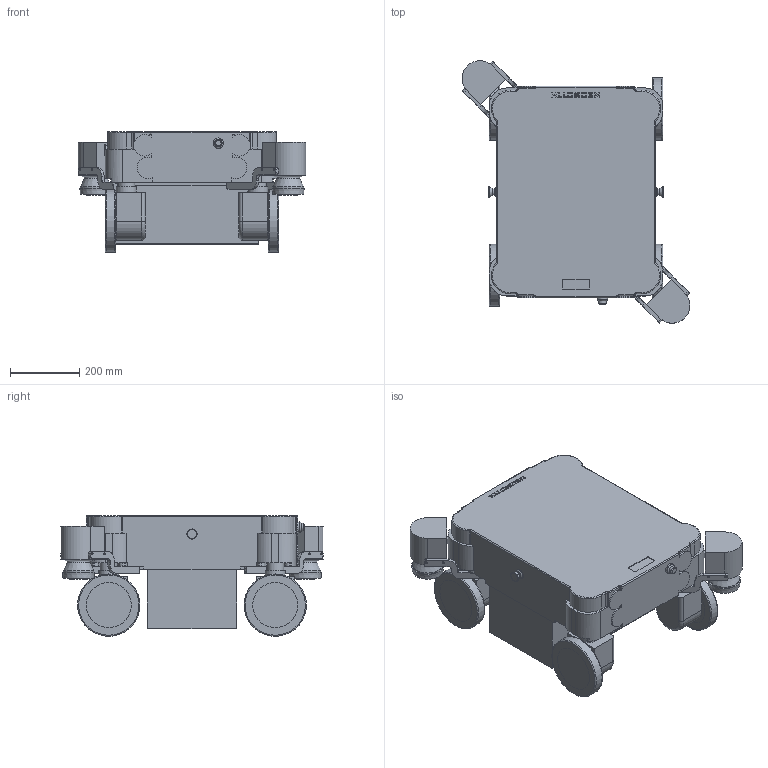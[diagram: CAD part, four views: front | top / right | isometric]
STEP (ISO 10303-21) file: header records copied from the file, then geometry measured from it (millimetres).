
FILE_DESCRIPTION(/* description */ (''),/* implementation_level */ '2;1');
FILE_NAME(/* name */ 'C:\Users\FLV\Downloads\MPO-700_V2-4-5_diag_2023-05-04.stp',/* time_stamp */ '2023-05-04T08:49:01+02:00',/* author */ ('FLV'),/* organization */ (''),/* preprocessor_version */ 'ST-DEVELOPER v19',/* originating_system */ 'Autodesk Inventor 2023',/* authorisation */ '');
FILE_SCHEMA (('AUTOMOTIVE_DESIGN { 1 0 10303 214 3 1 1 }'));
Length unit declared in the file: millimetre
Products named in the file (1): MPO-700 V2.4.5 Simplified Complete 2
Bounding box: 656.67 x 756.68 x 347.95 mm (x, y, z)
Volume: 71000865.3 mm3; surface area: 2260195.2 mm2
Topology: 1 solids, 1 shells, 619 faces, 1585 edges, 1011 vertices
Faces by surface type: plane 342, cylinder 201, bspline 32, torus 31, cone 13
Full cylindrical faces by diameter (mm): 5.5 x8, 19.819 x2, 22 x1, 28 x2, 28.5 x1, 30 x5, 50 x4, 58 x4, 65.949 x2, 88.637 x2, 96.792 x2, 130 x8, 180 x4
Entity records: 19622 total; most frequent: CARTESIAN_POINT 4200, DIRECTION 3169, ORIENTED_EDGE 3154, EDGE_CURVE 1577, AXIS2_PLACEMENT_3D 1068, LINE 1033, VECTOR 1033, VERTEX_POINT 1011
